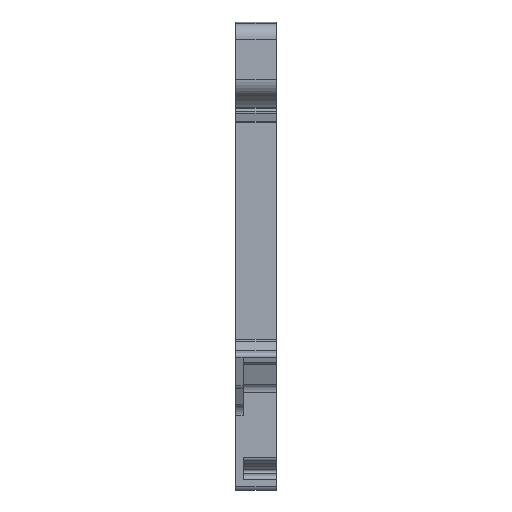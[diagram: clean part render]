
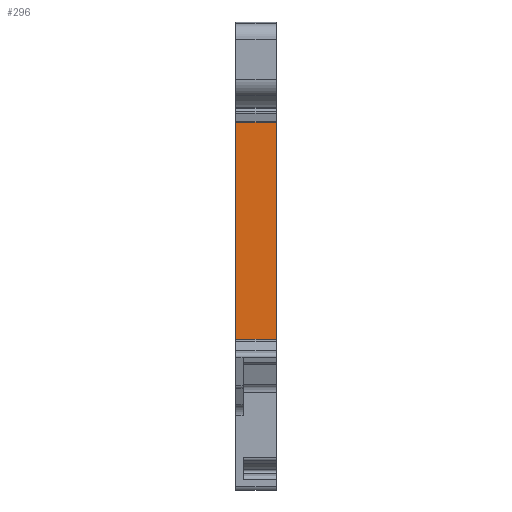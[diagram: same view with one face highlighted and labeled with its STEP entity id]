
A CAD part, front view. The second image highlights one B-rep face of the part: STEP entity #296.
In plain terms, the highlighted planar face has unit normal (0, -1, 0).
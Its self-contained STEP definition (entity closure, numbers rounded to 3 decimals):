
#296 = ADVANCED_FACE( '', ( #781 ), #782, .T. );
#781 = FACE_OUTER_BOUND( '', #1303, .T. );
#782 = PLANE( '', #1304 );
#1303 = EDGE_LOOP( '', ( #3410, #3411, #3412, #3413 ) );
#1304 = AXIS2_PLACEMENT_3D( '', #3414, #3415, #3416 );
#3410 = ORIENTED_EDGE( '', *, *, #3845, .T. );
#3411 = ORIENTED_EDGE( '', *, *, #4399, .F. );
#3412 = ORIENTED_EDGE( '', *, *, #4199, .T. );
#3413 = ORIENTED_EDGE( '', *, *, #4398, .T. );
#3414 = CARTESIAN_POINT( '', ( 0., 0.3, -12.732 ) );
#3415 = DIRECTION( '', ( 0., -1., 0. ) );
#3416 = DIRECTION( '', ( 0., 0., -1. ) );
#3845 = EDGE_CURVE( '', #4756, #4754, #4757, .T. );
#4199 = EDGE_CURVE( '', #5362, #5360, #5363, .T. );
#4398 = EDGE_CURVE( '', #5360, #4756, #5663, .T. );
#4399 = EDGE_CURVE( '', #5362, #4754, #5664, .T. );
#4754 = VERTEX_POINT( '', #6137 );
#4756 = VERTEX_POINT( '', #6139 );
#4757 = LINE( '', #6140, #6141 );
#5360 = VERTEX_POINT( '', #6979 );
#5362 = VERTEX_POINT( '', #6981 );
#5363 = LINE( '', #6982, #6983 );
#5663 = LINE( '', #7436, #7437 );
#5664 = LINE( '', #7438, #7439 );
#6137 = CARTESIAN_POINT( '', ( 5.1, 0.3, 14.849 ) );
#6139 = CARTESIAN_POINT( '', ( 5.1, 0.3, -12.732 ) );
#6140 = CARTESIAN_POINT( '', ( 5.1, 0.3, 14.849 ) );
#6141 = VECTOR( '', #7797, 1. );
#6979 = CARTESIAN_POINT( '', ( 0., 0.3, -12.732 ) );
#6981 = CARTESIAN_POINT( '', ( 0., 0.3, 14.849 ) );
#6982 = CARTESIAN_POINT( '', ( 0., 0.3, 14.849 ) );
#6983 = VECTOR( '', #8401, 1. );
#7436 = CARTESIAN_POINT( '', ( 0., 0.3, -12.732 ) );
#7437 = VECTOR( '', #8690, 1. );
#7438 = CARTESIAN_POINT( '', ( 0., 0.3, 14.849 ) );
#7439 = VECTOR( '', #8691, 1. );
#7797 = DIRECTION( '', ( 0., 0., 1. ) );
#8401 = DIRECTION( '', ( 0., 0., -1. ) );
#8690 = DIRECTION( '', ( 1., 0., 0. ) );
#8691 = DIRECTION( '', ( 1., 0., 0. ) );
